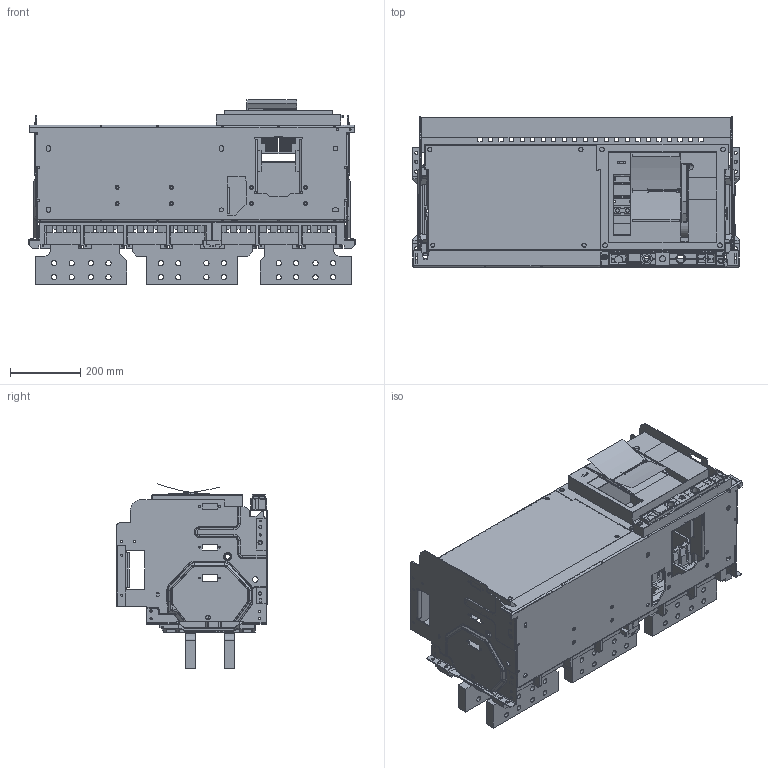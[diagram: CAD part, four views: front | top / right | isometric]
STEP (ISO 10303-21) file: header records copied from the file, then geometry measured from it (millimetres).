
FILE_DESCRIPTION(('CAx-IF Rec.Pracs.---Model Styling and Organization---1.2---2011-12-15','CAx-IF Rec.Pracs.---Geometric and Assembly Validation Properties---4.1---2014-06-16','CAx-IF Rec.Pracs.---PMI Polyline Presentation---2.0---2013-05-24'),'2;1');
FILE_NAME('YON AD-6000-S6-D horizontal connection.stp','2021-07-13T11:39:41+03:00',(''),(''),'STEP Interface 4.4 by CT CoreTechnologie','3D_Evolution4.4 by CT CoreTechnologie','');
FILE_SCHEMA(('AUTOMOTIVE_DESIGN { 1 0 10303 214 1 1 1 1 }'));
Length unit declared in the file: millimetre
Products named in the file (1): YON AD-6000-S6-D horizontal connection
Bounding box: 930 x 429 x 525.9 mm (x, y, z)
Surface area: 5210691.9 mm2 (no closed solid volume)
Topology: 0 solids, 41 shells, 5672 faces, 16462 edges, 10488 vertices
Faces by surface type: plane 3253, cylinder 1963, bspline 456
Entity records: 303260 total; most frequent: CARTESIAN_POINT 46988, ORIENTED_EDGE 32320, DIRECTION 30257, EDGE_CURVE 16241, VECTOR 11753, LINE 11753, PROPERTY_DEFINITION 11139, VERTEX_POINT 10475
